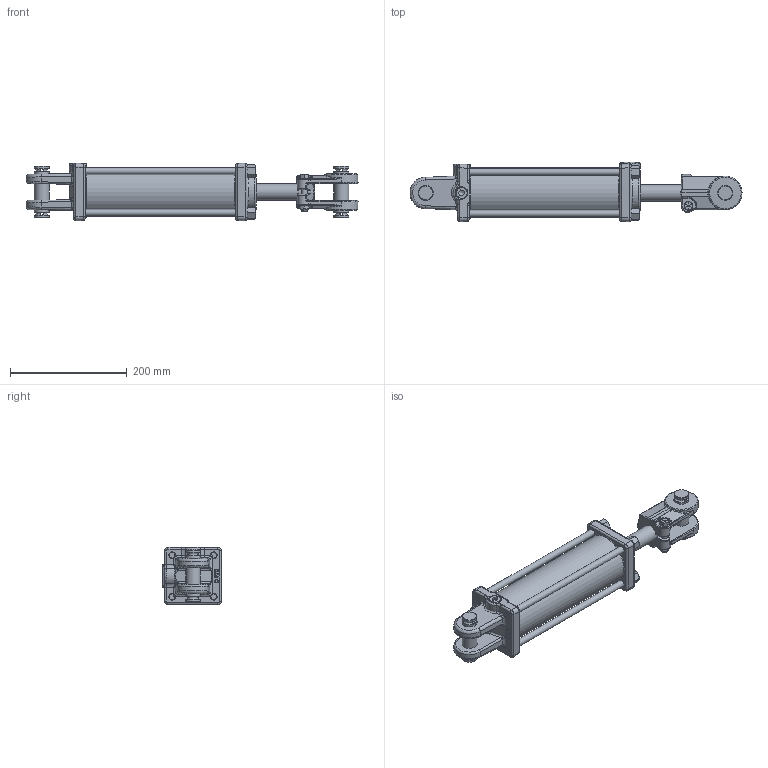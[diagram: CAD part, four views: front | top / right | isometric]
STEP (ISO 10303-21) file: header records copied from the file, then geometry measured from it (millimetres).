
FILE_DESCRIPTION((''),'2;1');
FILE_NAME('C:\Vault\Workspace\Vest\PMC-7108.stp','2009-05-06T09:26:11',('newtonb'),(''),'Autodesk Inventor 2008','Autodesk Inventor 2008','');
FILE_SCHEMA(('AUTOMOTIVE_DESIGN { 1 0 10303 214 1 1 1 1 }'));
Length unit declared in the file: inch
Products named in the file (23): PMC-7108V; 051510063AV; 141500001V; 081500004V; 010500005V; 100000423V; 100000422V; 170002104V; 220000203V; 071500003V; 220000208V; 240063334V; 240000334V; 240000018V; 240001334V; 240005216V; 240000216V; 250001216V; 170201122V; 800005001V_12.25; 220000105V; 190400001V; 200018003V
Assembly tree (30 placements, depth 3):
  PMC-7108V
    051510063AV
    141500001V
    081500004V
    010500005V
    100000423V
      100000422V
      170002104V
      220000203V
    071500003V
    220000208V
    240063334V  x2
    240000334V
    240000018V
    240001334V  x2
    240005216V
    240000216V
    250001216V
    170201122V  x4
      800005001V_12.25
      220000105V
    190400001V  x2
    200018003V  x3
Bounding box: 569.82 x 101.85 x 98.55 mm (x, y, z)
Volume: 1638560.4 mm3; surface area: 419126 mm2
Topology: 31 solids, 31 shells, 950 faces, 2199 edges, 1310 vertices
Faces by surface type: plane 297, bspline 293, cylinder 205, cone 117, torus 21, sphere 17
Full cylindrical faces by diameter (mm): 1.143 x2, 5.159 x4, 9.493 x1, 10.319 x2, 11.43 x4, 18.999 x1, 19.126 x1, 21.59 x1, 25.4 x6, 25.781 x4, 28.575 x3, 28.651 x2, 31.598 x2, 34.646 x1, 34.9 x2, 34.925 x1, 66.675 x2, 66.802 x1, 67.564 x2, 71.374 x2, 75.565 x2, 75.946 x4, 76.2 x1, 85.725 x1
Entity records: 33487 total; most frequent: CARTESIAN_POINT 15953, ORIENTED_EDGE 3558, DIRECTION 3192, EDGE_CURVE 1779, AXIS2_PLACEMENT_3D 1281, VERTEX_POINT 1122, EDGE_LOOP 991, FACE_OUTER_BOUND 811
